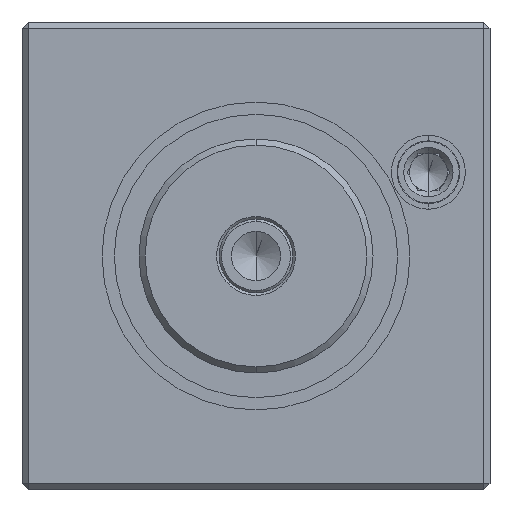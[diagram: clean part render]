
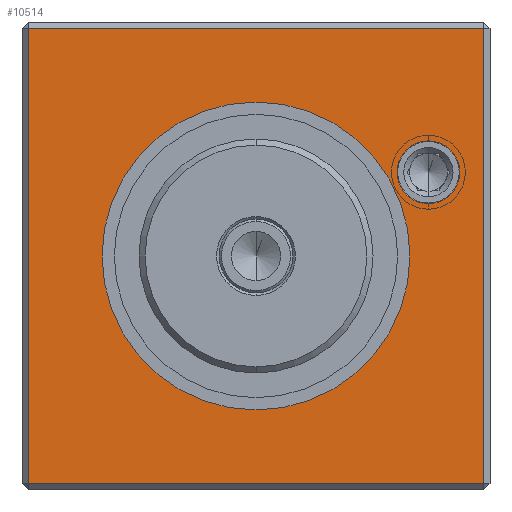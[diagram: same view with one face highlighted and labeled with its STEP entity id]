
A CAD part, left-side view. The second image highlights one B-rep face of the part: STEP entity #10514.
In plain terms, the highlighted planar face has unit normal (-1, 0, 0).
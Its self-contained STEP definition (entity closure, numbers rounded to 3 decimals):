
#8628 = VERTEX_POINT ( 'NONE', #23991 ) ;
#8629 = VERTEX_POINT ( 'NONE', #23992 ) ;
#8630 = VERTEX_POINT ( 'NONE', #23993 ) ;
#8631 = VERTEX_POINT ( 'NONE', #23994 ) ;
#9053 = EDGE_LOOP ( 'NONE', ( #9257, #9261 ) ) ;
#9054 = EDGE_LOOP ( 'NONE', ( #9258, #9260 ) ) ;
#9055 = EDGE_LOOP ( 'NONE', ( #9251, #9255, #9254, #9256 ) ) ;
#9251 = ORIENTED_EDGE ( 'NONE', *, *, #10445, .T. ) ;
#9254 = ORIENTED_EDGE ( 'NONE', *, *, #10446, .T. ) ;
#9255 = ORIENTED_EDGE ( 'NONE', *, *, #10444, .T. ) ;
#9256 = ORIENTED_EDGE ( 'NONE', *, *, #10447, .T. ) ;
#9257 = ORIENTED_EDGE ( 'NONE', *, *, #10449, .F. ) ;
#9258 = ORIENTED_EDGE ( 'NONE', *, *, #10448, .F. ) ;
#9260 = ORIENTED_EDGE ( 'NONE', *, *, #10721, .F. ) ;
#9261 = ORIENTED_EDGE ( 'NONE', *, *, #10559, .F. ) ;
#9853 = VERTEX_POINT ( 'NONE', #24102 ) ;
#9854 = VERTEX_POINT ( 'NONE', #24103 ) ;
#9967 = VERTEX_POINT ( 'NONE', #24216 ) ;
#9968 = VERTEX_POINT ( 'NONE', #24217 ) ;
#10444 = EDGE_CURVE ( 'NONE', #8630, #8629, #27798, .T. ) ;
#10445 = EDGE_CURVE ( 'NONE', #8631, #8630, #27801, .T. ) ;
#10446 = EDGE_CURVE ( 'NONE', #8629, #8628, #27804, .T. ) ;
#10447 = EDGE_CURVE ( 'NONE', #8628, #8631, #27807, .T. ) ;
#10448 = EDGE_CURVE ( 'NONE', #9854, #9853, #12860, .T. ) ;
#10449 = EDGE_CURVE ( 'NONE', #9968, #9967, #12861, .T. ) ;
#10514 = ADVANCED_FACE ( 'NONE', ( #26129, #26127, #26134 ), #28090, .F. ) ;
#10559 = EDGE_CURVE ( 'NONE', #9967, #9968, #12895, .T. ) ;
#10721 = EDGE_CURVE ( 'NONE', #9853, #9854, #28727, .T. ) ;
#12860 = CIRCLE ( 'NONE', #26028, 2.5 ) ;
#12861 = CIRCLE ( 'NONE', #26033, 12.5 ) ;
#12895 = CIRCLE ( 'NONE', #26237, 12.5 ) ;
#23991 = CARTESIAN_POINT ( 'NONE',  ( 0., -18.5, 18.5 ) ) ;
#23992 = CARTESIAN_POINT ( 'NONE',  ( 0., -18.5, -18.5 ) ) ;
#23993 = CARTESIAN_POINT ( 'NONE',  ( 0., 18.5, -18.5 ) ) ;
#23994 = CARTESIAN_POINT ( 'NONE',  ( 0., 18.5, 18.5 ) ) ;
#24102 = CARTESIAN_POINT ( 'NONE',  ( 0., -14., 4.3 ) ) ;
#24103 = CARTESIAN_POINT ( 'NONE',  ( 0., -14., 9.3 ) ) ;
#24216 = CARTESIAN_POINT ( 'NONE',  ( 0., 12.5, 0. ) ) ;
#24217 = CARTESIAN_POINT ( 'NONE',  ( 0., -12.5, 0. ) ) ;
#26028 = AXIS2_PLACEMENT_3D ( 'NONE', #27797, #27810, #27811 ) ;
#26029 = VECTOR ( 'NONE', #27800, 1000. ) ;
#26030 = VECTOR ( 'NONE', #27803, 1000. ) ;
#26031 = VECTOR ( 'NONE', #27806, 1000. ) ;
#26032 = VECTOR ( 'NONE', #27809, 1000. ) ;
#26033 = AXIS2_PLACEMENT_3D ( 'NONE', #27812, #27813, #27814 ) ;
#26127 = FACE_BOUND ( 'NONE', #9054, .T. ) ;
#26129 = FACE_OUTER_BOUND ( 'NONE', #9055, .T. ) ;
#26134 = FACE_BOUND ( 'NONE', #9053, .T. ) ;
#26136 = AXIS2_PLACEMENT_3D ( 'NONE', #28091, #28092, #28093 ) ;
#26237 = AXIS2_PLACEMENT_3D ( 'NONE', #28233, #28234, #28235 ) ;
#26390 = AXIS2_PLACEMENT_3D ( 'NONE', #29028, #29029, #29030 ) ;
#27797 = CARTESIAN_POINT ( 'NONE',  ( 0., -14., 6.8 ) ) ;
#27798 = LINE ( 'NONE', #27799, #26029 ) ;
#27799 = CARTESIAN_POINT ( 'NONE',  ( 0., -19., -18.5 ) ) ;
#27800 = DIRECTION ( 'NONE',  ( 0., -1., 0. ) ) ;
#27801 = LINE ( 'NONE', #27802, #26030 ) ;
#27802 = CARTESIAN_POINT ( 'NONE',  ( 0., 18.5, 19. ) ) ;
#27803 = DIRECTION ( 'NONE',  ( 0., 0., -1. ) ) ;
#27804 = LINE ( 'NONE', #27805, #26031 ) ;
#27805 = CARTESIAN_POINT ( 'NONE',  ( 0., -18.5, 19. ) ) ;
#27806 = DIRECTION ( 'NONE',  ( 0., 0., 1. ) ) ;
#27807 = LINE ( 'NONE', #27808, #26032 ) ;
#27808 = CARTESIAN_POINT ( 'NONE',  ( 0., -19., 18.5 ) ) ;
#27809 = DIRECTION ( 'NONE',  ( 0., 1., 0. ) ) ;
#27810 = DIRECTION ( 'NONE',  ( -1., 0., 0. ) ) ;
#27811 = DIRECTION ( 'NONE',  ( 0., 0., 1. ) ) ;
#27812 = CARTESIAN_POINT ( 'NONE',  ( 0., 0., 0. ) ) ;
#27813 = DIRECTION ( 'NONE',  ( -1., 0., 0. ) ) ;
#27814 = DIRECTION ( 'NONE',  ( 0., -1., 0. ) ) ;
#28090 = PLANE ( 'NONE',  #26136 ) ;
#28091 = CARTESIAN_POINT ( 'NONE',  ( 0., -19., 19. ) ) ;
#28092 = DIRECTION ( 'NONE',  ( 1., 0., 0. ) ) ;
#28093 = DIRECTION ( 'NONE',  ( 0., 0., -1. ) ) ;
#28233 = CARTESIAN_POINT ( 'NONE',  ( 0., 0., 0. ) ) ;
#28234 = DIRECTION ( 'NONE',  ( -1., 0., 0. ) ) ;
#28235 = DIRECTION ( 'NONE',  ( 0., -1., 0. ) ) ;
#28727 = CIRCLE ( 'NONE', #26390, 2.5 ) ;
#29028 = CARTESIAN_POINT ( 'NONE',  ( 0., -14., 6.8 ) ) ;
#29029 = DIRECTION ( 'NONE',  ( -1., 0., 0. ) ) ;
#29030 = DIRECTION ( 'NONE',  ( 0., 0., 1. ) ) ;
